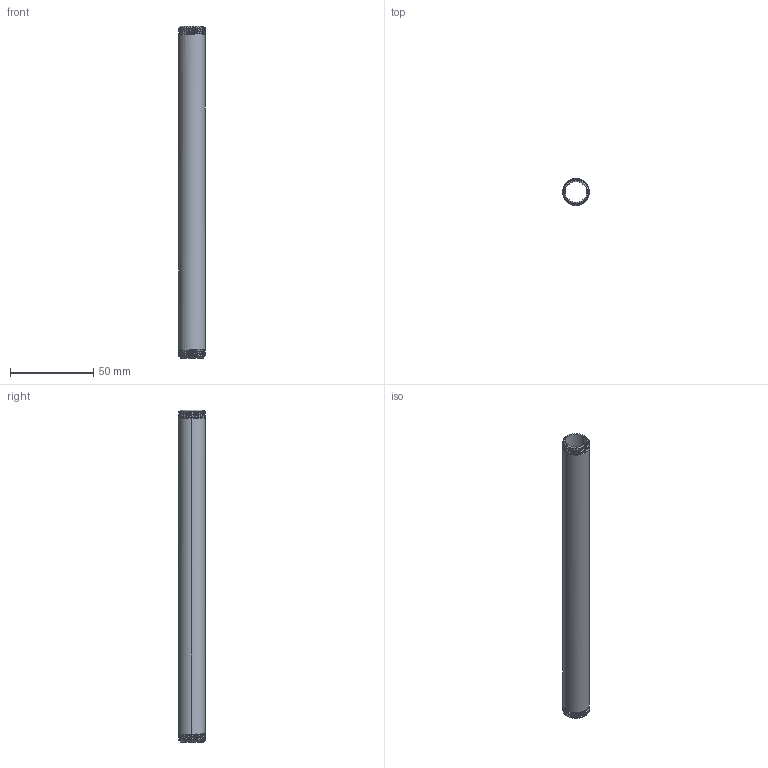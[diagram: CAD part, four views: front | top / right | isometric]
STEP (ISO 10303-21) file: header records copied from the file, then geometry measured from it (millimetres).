
FILE_DESCRIPTION (( 'STEP AP214' ), '1' );
FILE_NAME ('SC80.STEP', '2016-02-26T10:54:37', ( '' ), ( '' ), 'SwSTEP 2.0', 'SolidWorks 2012', '' );
FILE_SCHEMA (( 'AUTOMOTIVE_DESIGN' ));
Length unit declared in the file: millimetre
Products named in the file (1): SC80
Bounding box: 16 x 15.99 x 200 mm (x, y, z)
Volume: 13523.2 mm3; surface area: 18501.8 mm2
Topology: 1 solids, 1 shells, 34 faces, 94 edges, 62 vertices
Faces by surface type: cylinder 20, bspline 6, cone 4, plane 4
Entity records: 3052 total; most frequent: CARTESIAN_POINT 2301, ORIENTED_EDGE 188, DIRECTION 114, EDGE_CURVE 94, VERTEX_POINT 62, AXIS2_PLACEMENT_3D 43, EDGE_LOOP 36, FACE_OUTER_BOUND 34
